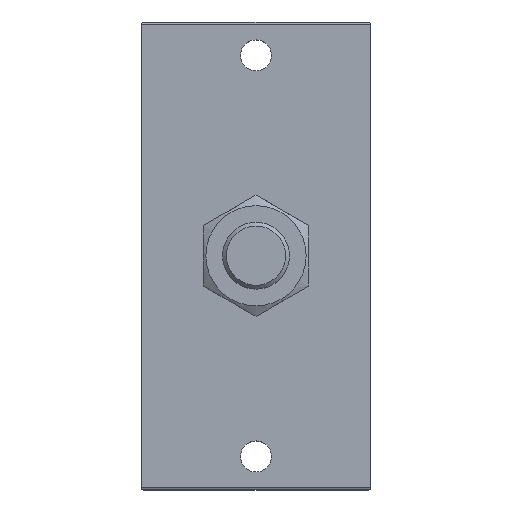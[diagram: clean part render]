
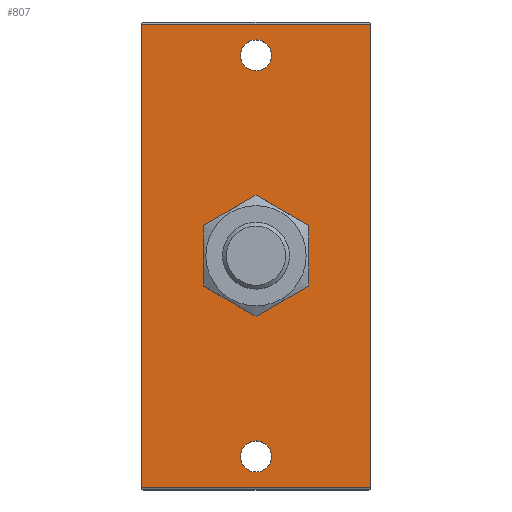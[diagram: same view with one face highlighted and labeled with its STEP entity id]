
A CAD part, top view. The second image highlights one B-rep face of the part: STEP entity #807.
In plain terms, the highlighted planar face has unit normal (0, 0, 1).
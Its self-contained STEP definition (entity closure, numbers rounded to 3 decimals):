
#521=CARTESIAN_POINT('',(36.017,48.5,16.0));
#522=VERTEX_POINT('',#521);
#553=CARTESIAN_POINT('',(-11.983,48.5,16.0));
#554=VERTEX_POINT('',#553);
#555=CARTESIAN_POINT('',(-11.983,48.5,16.0));
#556=DIRECTION('',(1.0,0.0,0.0));
#557=VECTOR('',#556,48.);
#558=LINE('',#555,#557);
#559=EDGE_CURVE('',#554,#522,#558,.T.);
#652=CARTESIAN_POINT('',(36.017,-48.5,16.0));
#653=VERTEX_POINT('',#652);
#654=CARTESIAN_POINT('',(36.017,48.5,16.0));
#655=DIRECTION('',(0.0,-1.0,0.0));
#656=VECTOR('',#655,97.);
#657=LINE('',#654,#656);
#658=EDGE_CURVE('',#522,#653,#657,.T.);
#692=CARTESIAN_POINT('',(12.017,0.0,16.0));
#693=DIRECTION('',(0.0,0.0,1.0));
#694=DIRECTION('',(1.0,0.0,0.0));
#695=AXIS2_PLACEMENT_3D('',#692,#693,#694);
#696=PLANE('',#695);
#697=ORIENTED_EDGE('',*,*,#559,.F.);
#698=CARTESIAN_POINT('',(-11.983,-48.5,16.0));
#699=VERTEX_POINT('',#698);
#700=CARTESIAN_POINT('',(-11.983,-48.5,16.0));
#701=DIRECTION('',(0.0,1.0,0.0));
#702=VECTOR('',#701,97.);
#703=LINE('',#700,#702);
#704=EDGE_CURVE('',#699,#554,#703,.T.);
#705=ORIENTED_EDGE('',*,*,#704,.F.);
#706=CARTESIAN_POINT('',(36.017,-48.5,16.0));
#707=DIRECTION('',(-1.0,0.0,0.0));
#708=VECTOR('',#707,48.0);
#709=LINE('',#706,#708);
#710=EDGE_CURVE('',#653,#699,#709,.T.);
#711=ORIENTED_EDGE('',*,*,#710,.F.);
#712=ORIENTED_EDGE('',*,*,#658,.F.);
#713=EDGE_LOOP('',(#697,#705,#711,#712));
#714=FACE_OUTER_BOUND('',#713,.T.);
#715=CARTESIAN_POINT('',(14.801,7.5,16.0));
#716=VERTEX_POINT('',#715);
#717=CARTESIAN_POINT('',(19.517,2.784,16.0));
#718=VERTEX_POINT('',#717);
#719=CARTESIAN_POINT('',(12.017,0.0,16.0));
#720=DIRECTION('',(0.0,0.0,-1.0));
#721=DIRECTION('',(0.0,1.0,0.0));
#722=AXIS2_PLACEMENT_3D('',#719,#720,#721);
#723=CIRCLE('',#722,8.);
#724=EDGE_CURVE('',#716,#718,#723,.T.);
#725=ORIENTED_EDGE('',*,*,#724,.T.);
#726=CARTESIAN_POINT('',(19.517,-2.784,16.0));
#727=VERTEX_POINT('',#726);
#728=CARTESIAN_POINT('',(19.517,-2.784,16.0));
#729=DIRECTION('',(0.0,1.0,0.0));
#730=VECTOR('',#729,5.568);
#731=LINE('',#728,#730);
#732=EDGE_CURVE('',#727,#718,#731,.T.);
#733=ORIENTED_EDGE('',*,*,#732,.F.);
#734=CARTESIAN_POINT('',(14.801,-7.5,16.0));
#735=VERTEX_POINT('',#734);
#736=CARTESIAN_POINT('',(12.017,0.0,16.0));
#737=DIRECTION('',(0.0,0.0,-1.0));
#738=DIRECTION('',(0.0,1.0,0.0));
#739=AXIS2_PLACEMENT_3D('',#736,#737,#738);
#740=CIRCLE('',#739,8.);
#741=EDGE_CURVE('',#727,#735,#740,.T.);
#742=ORIENTED_EDGE('',*,*,#741,.T.);
#743=CARTESIAN_POINT('',(9.233,-7.5,16.0));
#744=VERTEX_POINT('',#743);
#745=CARTESIAN_POINT('',(9.233,-7.5,16.0));
#746=DIRECTION('',(1.0,0.0,0.0));
#747=VECTOR('',#746,5.568);
#748=LINE('',#745,#747);
#749=EDGE_CURVE('',#744,#735,#748,.T.);
#750=ORIENTED_EDGE('',*,*,#749,.F.);
#751=CARTESIAN_POINT('',(4.517,-2.784,16.0));
#752=VERTEX_POINT('',#751);
#753=CARTESIAN_POINT('',(12.017,0.0,16.0));
#754=DIRECTION('',(0.0,0.0,-1.0));
#755=DIRECTION('',(0.0,1.0,0.0));
#756=AXIS2_PLACEMENT_3D('',#753,#754,#755);
#757=CIRCLE('',#756,8.);
#758=EDGE_CURVE('',#744,#752,#757,.T.);
#759=ORIENTED_EDGE('',*,*,#758,.T.);
#760=CARTESIAN_POINT('',(4.517,2.784,16.0));
#761=VERTEX_POINT('',#760);
#762=CARTESIAN_POINT('',(4.517,2.784,16.0));
#763=DIRECTION('',(0.0,-1.0,0.0));
#764=VECTOR('',#763,5.568);
#765=LINE('',#762,#764);
#766=EDGE_CURVE('',#761,#752,#765,.T.);
#767=ORIENTED_EDGE('',*,*,#766,.F.);
#768=CARTESIAN_POINT('',(9.233,7.5,16.0));
#769=VERTEX_POINT('',#768);
#770=CARTESIAN_POINT('',(12.017,0.0,16.0));
#771=DIRECTION('',(0.0,0.0,-1.0));
#772=DIRECTION('',(0.0,1.0,0.0));
#773=AXIS2_PLACEMENT_3D('',#770,#771,#772);
#774=CIRCLE('',#773,8.);
#775=EDGE_CURVE('',#761,#769,#774,.T.);
#776=ORIENTED_EDGE('',*,*,#775,.T.);
#777=CARTESIAN_POINT('',(14.801,7.5,16.0));
#778=DIRECTION('',(-1.0,0.0,0.0));
#779=VECTOR('',#778,5.568);
#780=LINE('',#777,#779);
#781=EDGE_CURVE('',#716,#769,#780,.T.);
#782=ORIENTED_EDGE('',*,*,#781,.F.);
#783=EDGE_LOOP('',(#725,#733,#742,#750,#759,#767,#776,#782));
#784=FACE_BOUND('',#783,.T.);
#785=CARTESIAN_POINT('',(15.267,42.0,16.0));
#786=VERTEX_POINT('',#785);
#787=CARTESIAN_POINT('',(12.017,42.0,16.0));
#788=DIRECTION('',(0.0,0.0,1.0));
#789=DIRECTION('',(-1.0,0.0,0.0));
#790=AXIS2_PLACEMENT_3D('',#787,#788,#789);
#791=CIRCLE('',#790,3.25);
#792=EDGE_CURVE('',#786,#786,#791,.T.);
#793=ORIENTED_EDGE('',*,*,#792,.F.);
#794=EDGE_LOOP('',(#793));
#795=FACE_BOUND('',#794,.T.);
#796=CARTESIAN_POINT('',(15.267,-42.0,16.0));
#797=VERTEX_POINT('',#796);
#798=CARTESIAN_POINT('',(12.017,-42.0,16.0));
#799=DIRECTION('',(0.0,0.0,1.0));
#800=DIRECTION('',(-1.0,0.0,0.0));
#801=AXIS2_PLACEMENT_3D('',#798,#799,#800);
#802=CIRCLE('',#801,3.25);
#803=EDGE_CURVE('',#797,#797,#802,.T.);
#804=ORIENTED_EDGE('',*,*,#803,.F.);
#805=EDGE_LOOP('',(#804));
#806=FACE_BOUND('',#805,.T.);
#807=ADVANCED_FACE('',(#714,#784,#795,#806),#696,.T.);
